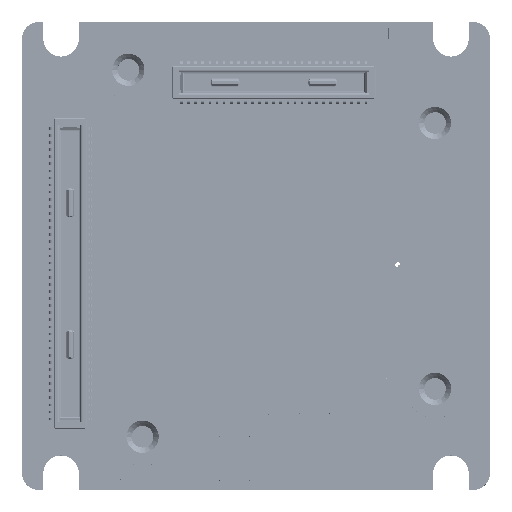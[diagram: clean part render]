
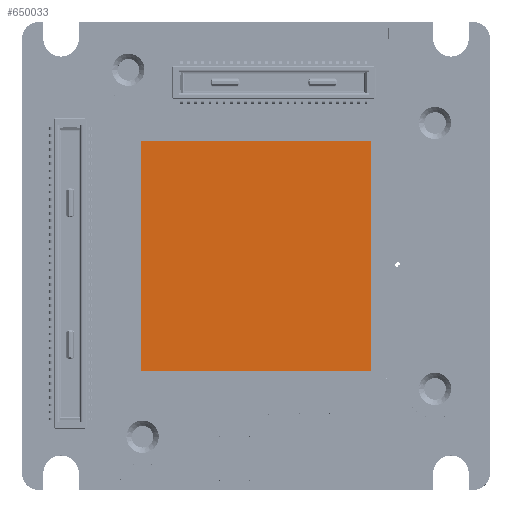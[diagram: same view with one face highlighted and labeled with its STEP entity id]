
A CAD part, top view. The second image highlights one B-rep face of the part: STEP entity #650033.
In plain terms, the highlighted planar face has unit normal (0, 0, 1).
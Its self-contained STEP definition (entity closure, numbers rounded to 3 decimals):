
#18397 = AXIS2_PLACEMENT_3D ( 'NONE', #114381, #224787, #20336 ) ;
#20336 = DIRECTION ( 'NONE',  ( 0., -1., 0. ) ) ;
#114381 = CARTESIAN_POINT ( 'NONE',  ( 0., 0., 6.162 ) ) ;
#123586 = LINE ( 'NONE', #431848, #484373 ) ;
#152029 = VECTOR ( 'NONE', #432032, 1000. ) ;
#156095 = CARTESIAN_POINT ( 'NONE',  ( -6.5, 6.5, 6.162 ) ) ;
#159604 = VERTEX_POINT ( 'NONE', #156095 ) ;
#192972 = CARTESIAN_POINT ( 'NONE',  ( 6.5, -6.5, 6.162 ) ) ;
#210729 = ORIENTED_EDGE ( 'NONE', *, *, #619470, .F. ) ;
#216503 = VERTEX_POINT ( 'NONE', #649045 ) ;
#224787 = DIRECTION ( 'NONE',  ( 0., 0., -1. ) ) ;
#261154 = LINE ( 'NONE', #629715, #376514 ) ;
#293562 = LINE ( 'NONE', #598729, #465237 ) ;
#294805 = EDGE_CURVE ( 'NONE', #573111, #588436, #123586, .T. ) ;
#328081 = DIRECTION ( 'NONE',  ( 0., -1., 0. ) ) ;
#338184 = LINE ( 'NONE', #482380, #152029 ) ;
#345221 = EDGE_CURVE ( 'NONE', #159604, #573111, #293562, .T. ) ;
#376514 = VECTOR ( 'NONE', #572882, 1000. ) ;
#386618 = CARTESIAN_POINT ( 'NONE',  ( 6.5, 6.5, 6.162 ) ) ;
#431848 = CARTESIAN_POINT ( 'NONE',  ( 6.5, 6.5, 6.162 ) ) ;
#432032 = DIRECTION ( 'NONE',  ( 0., 1., 0. ) ) ;
#452048 = ORIENTED_EDGE ( 'NONE', *, *, #552149, .F. ) ;
#458208 = EDGE_LOOP ( 'NONE', ( #452048, #516809, #521011, #210729 ) ) ;
#465237 = VECTOR ( 'NONE', #501453, 1000. ) ;
#482380 = CARTESIAN_POINT ( 'NONE',  ( -6.5, -6.5, 6.162 ) ) ;
#484373 = VECTOR ( 'NONE', #328081, 1000. ) ;
#501453 = DIRECTION ( 'NONE',  ( 1., 0., 0. ) ) ;
#510140 = PLANE ( 'NONE',  #18397 ) ;
#516809 = ORIENTED_EDGE ( 'NONE', *, *, #294805, .F. ) ;
#521011 = ORIENTED_EDGE ( 'NONE', *, *, #345221, .F. ) ;
#552149 = EDGE_CURVE ( 'NONE', #588436, #216503, #261154, .T. ) ;
#567024 = FACE_OUTER_BOUND ( 'NONE', #458208, .T. ) ;
#572882 = DIRECTION ( 'NONE',  ( -1., 0., 0. ) ) ;
#573111 = VERTEX_POINT ( 'NONE', #386618 ) ;
#588436 = VERTEX_POINT ( 'NONE', #192972 ) ;
#598729 = CARTESIAN_POINT ( 'NONE',  ( -6.5, 6.5, 6.162 ) ) ;
#619470 = EDGE_CURVE ( 'NONE', #216503, #159604, #338184, .T. ) ;
#629715 = CARTESIAN_POINT ( 'NONE',  ( 6.5, -6.5, 6.162 ) ) ;
#649045 = CARTESIAN_POINT ( 'NONE',  ( -6.5, -6.5, 6.162 ) ) ;
#650033 = ADVANCED_FACE ( 'NONE', ( #567024 ), #510140, .F. ) ;
